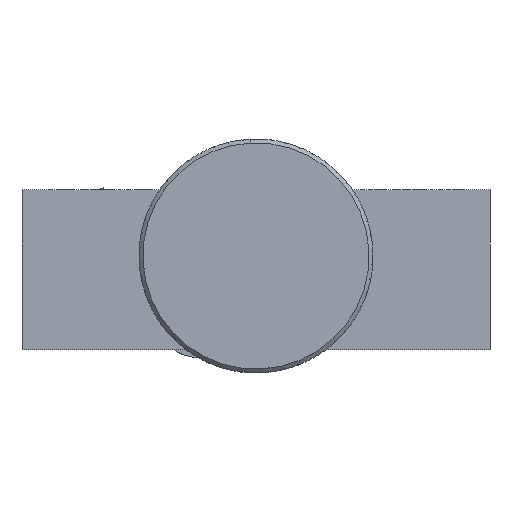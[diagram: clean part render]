
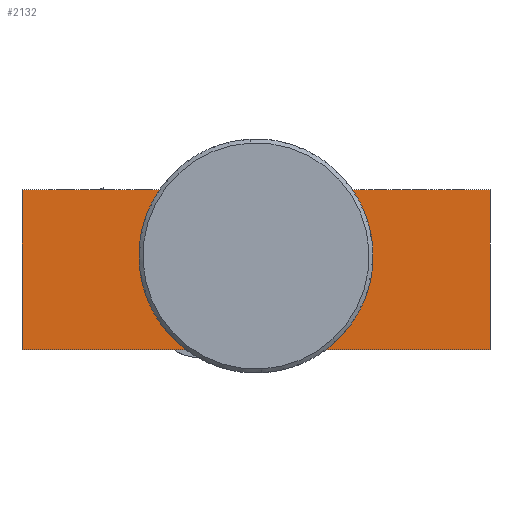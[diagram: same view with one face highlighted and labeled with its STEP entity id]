
A CAD part, left-side view. The second image highlights one B-rep face of the part: STEP entity #2132.
In plain terms, the highlighted planar face has unit normal (-1, 0, 0).
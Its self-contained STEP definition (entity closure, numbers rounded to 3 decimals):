
#1028 = VERTEX_POINT ( 'NONE', #5945 ) ;
#1202 = DIRECTION ( 'NONE',  ( 0., -1., 0. ) ) ;
#1243 = CIRCLE ( 'NONE', #1478, 4.25 ) ;
#1286 = DIRECTION ( 'NONE',  ( 0., 1., 0. ) ) ;
#1298 = CARTESIAN_POINT ( 'NONE',  ( -30., -30., -5. ) ) ;
#1430 = AXIS2_PLACEMENT_3D ( 'NONE', #7707, #7692, #7672 ) ;
#1478 = AXIS2_PLACEMENT_3D ( 'NONE', #8979, #8920, #8894 ) ;
#1867 = EDGE_CURVE ( 'NONE', #4284, #3787, #6802, .T. ) ;
#2030 = CARTESIAN_POINT ( 'NONE',  ( -30., -30., 15.5 ) ) ;
#2043 = LINE ( 'NONE', #7425, #2115 ) ;
#2115 = VECTOR ( 'NONE', #1202, 1000. ) ;
#2132 = ADVANCED_FACE ( 'NONE', ( #6149, #6226 ), #8641, .F. ) ;
#2466 = EDGE_LOOP ( 'NONE', ( #6344, #6486, #7844, #6219 ) ) ;
#2575 = CARTESIAN_POINT ( 'NONE',  ( -30., 30., 15.5 ) ) ;
#2632 = EDGE_LOOP ( 'NONE', ( #8750, #7965 ) ) ;
#3654 = CARTESIAN_POINT ( 'NONE',  ( -30., -30., -5. ) ) ;
#3787 = VERTEX_POINT ( 'NONE', #9841 ) ;
#4014 = EDGE_CURVE ( 'NONE', #4347, #4397, #2043, .T. ) ;
#4239 = VECTOR ( 'NONE', #7508, 1000. ) ;
#4276 = VERTEX_POINT ( 'NONE', #5136 ) ;
#4284 = VERTEX_POINT ( 'NONE', #3654 ) ;
#4347 = VERTEX_POINT ( 'NONE', #2575 ) ;
#4397 = VERTEX_POINT ( 'NONE', #2030 ) ;
#4977 = CARTESIAN_POINT ( 'NONE',  ( -30., 30., 15.5 ) ) ;
#5059 = LINE ( 'NONE', #4977, #4239 ) ;
#5136 = CARTESIAN_POINT ( 'NONE',  ( -30., 0., 2.75 ) ) ;
#5891 = AXIS2_PLACEMENT_3D ( 'NONE', #8702, #8639, #8627 ) ;
#5945 = CARTESIAN_POINT ( 'NONE',  ( -30., 0., 11.25 ) ) ;
#6149 = FACE_BOUND ( 'NONE', #2632, .T. ) ;
#6219 = ORIENTED_EDGE ( 'NONE', *, *, #4014, .F. ) ;
#6226 = FACE_OUTER_BOUND ( 'NONE', #2466, .T. ) ;
#6344 = ORIENTED_EDGE ( 'NONE', *, *, #6501, .T. ) ;
#6486 = ORIENTED_EDGE ( 'NONE', *, *, #1867, .F. ) ;
#6501 = EDGE_CURVE ( 'NONE', #4347, #3787, #5059, .T. ) ;
#6802 = LINE ( 'NONE', #1298, #8712 ) ;
#7312 = EDGE_CURVE ( 'NONE', #4276, #1028, #1243, .T. ) ;
#7381 = EDGE_CURVE ( 'NONE', #1028, #4276, #10044, .T. ) ;
#7425 = CARTESIAN_POINT ( 'NONE',  ( -30., -30., 15.5 ) ) ;
#7458 = EDGE_CURVE ( 'NONE', #4397, #4284, #8748, .T. ) ;
#7508 = DIRECTION ( 'NONE',  ( 0., 0., -1. ) ) ;
#7537 = VECTOR ( 'NONE', #7569, 1000. ) ;
#7569 = DIRECTION ( 'NONE',  ( 0., 0., -1. ) ) ;
#7589 = CARTESIAN_POINT ( 'NONE',  ( -30., -30., 15.5 ) ) ;
#7672 = DIRECTION ( 'NONE',  ( 0., 0., 1. ) ) ;
#7692 = DIRECTION ( 'NONE',  ( -1., 0., 0. ) ) ;
#7707 = CARTESIAN_POINT ( 'NONE',  ( -30., 0., 7. ) ) ;
#7844 = ORIENTED_EDGE ( 'NONE', *, *, #7458, .F. ) ;
#7965 = ORIENTED_EDGE ( 'NONE', *, *, #7312, .F. ) ;
#8627 = DIRECTION ( 'NONE',  ( 0., 0., -1. ) ) ;
#8639 = DIRECTION ( 'NONE',  ( 1., 0., 0. ) ) ;
#8641 = PLANE ( 'NONE',  #5891 ) ;
#8702 = CARTESIAN_POINT ( 'NONE',  ( -30., -30., 15.5 ) ) ;
#8712 = VECTOR ( 'NONE', #1286, 1000. ) ;
#8748 = LINE ( 'NONE', #7589, #7537 ) ;
#8750 = ORIENTED_EDGE ( 'NONE', *, *, #7381, .F. ) ;
#8894 = DIRECTION ( 'NONE',  ( 0., 0., 1. ) ) ;
#8920 = DIRECTION ( 'NONE',  ( -1., 0., 0. ) ) ;
#8979 = CARTESIAN_POINT ( 'NONE',  ( -30., 0., 7. ) ) ;
#9841 = CARTESIAN_POINT ( 'NONE',  ( -30., 30., -5. ) ) ;
#10044 = CIRCLE ( 'NONE', #1430, 4.25 ) ;
